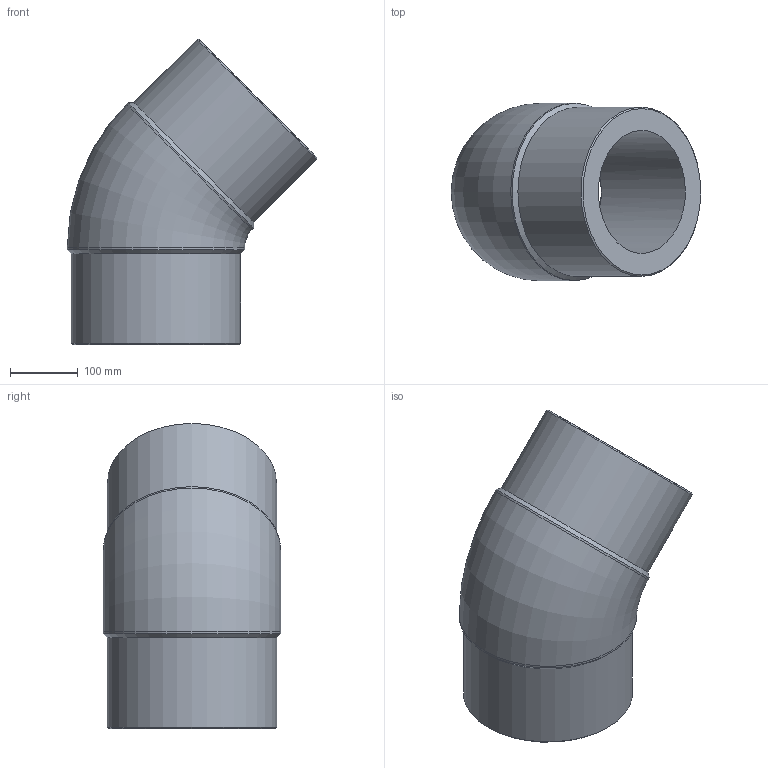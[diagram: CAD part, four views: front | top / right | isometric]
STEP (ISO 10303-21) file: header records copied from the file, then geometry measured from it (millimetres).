
FILE_DESCRIPTION(/* description */ ('Unknown'),/* implementation_level */ '2;1');
FILE_NAME(/* name */ 'G4P250H',/* time_stamp */ '2022-01-21T11:06:14+01:00',/* author */ ('Unknown'),/* organization */ ('Unknown'),/* preprocessor_version */ 'ST-DEVELOPER v18.1',/* originating_system */ 'Solid Edge',/* authorisation */ 'Unknown');
FILE_SCHEMA (('AUTOMOTIVE_DESIGN {1 0 10303 214 3 1 1}'));
Length unit declared in the file: millimetre
Products named in the file (1): G4P250H
Bounding box: 368.59 x 262 x 450.59 mm (x, y, z)
Volume: 10442543.8 mm3; surface area: 621869.1 mm2
Topology: 1 solids, 1 shells, 14 faces, 34 edges, 22 vertices
Faces by surface type: cylinder 6, cone 4, plane 2, torus 2
Full cylindrical faces by diameter (mm): 181.6 x2, 250 x2, 262 x2
Entity records: 374 total; most frequent: CARTESIAN_POINT 74, DIRECTION 60, ORIENTED_EDGE 38, AXIS2_PLACEMENT_3D 30, EDGE_LOOP 27, FACE_BOUND 27, EDGE_CURVE 19, VERTEX_POINT 18
